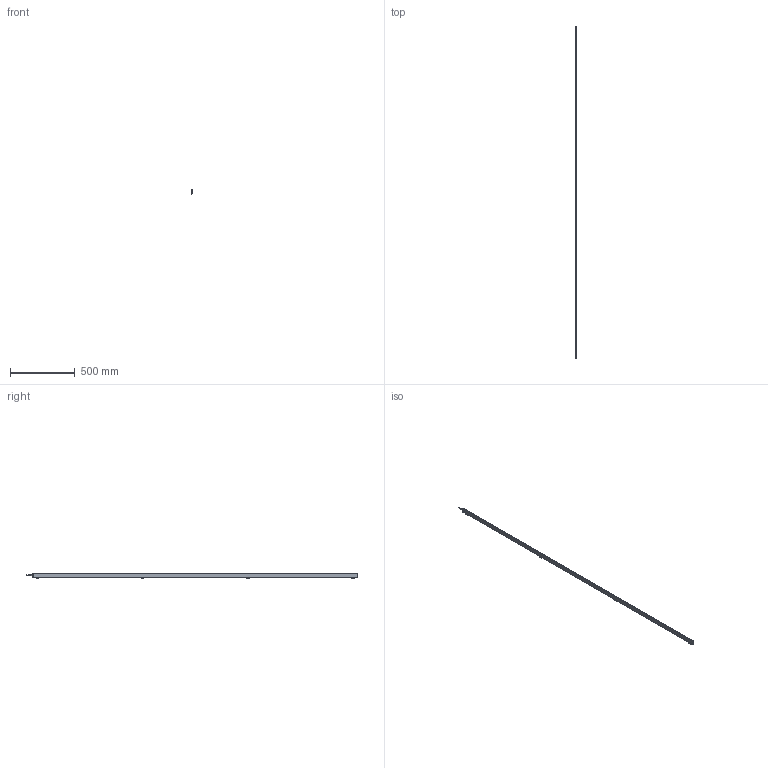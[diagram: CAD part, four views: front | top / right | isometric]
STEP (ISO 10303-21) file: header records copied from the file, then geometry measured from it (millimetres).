
FILE_DESCRIPTION (( 'STEP AP214' ), '1' );
FILE_NAME ('ILG-N-K2-2520mm.STEP', '2017-07-10T14:13:07', ( '' ), ( '' ), 'SwSTEP 2.0', 'SolidWorks 2016', '' );
FILE_SCHEMA (( 'AUTOMOTIVE_DESIGN' ));
Length unit declared in the file: millimetre
Products named in the file (1): ILG-N-K2-2520mm
Bounding box: 10.2 x 2573.5 x 42.41 mm (x, y, z)
Surface area: 421269.8 mm2 (no closed solid volume)
Topology: 0 solids, 17 shells, 822 faces, 2121 edges, 1329 vertices
Faces by surface type: plane 379, cylinder 305, cone 90, bspline 32, torus 16
Entity records: 36121 total; most frequent: CARTESIAN_POINT 7158, ORIENTED_EDGE 4195, DIRECTION 4057, EDGE_CURVE 2105, AXIS2_PLACEMENT_3D 1476, VERTEX_POINT 1329, LINE 1105, VECTOR 1105
